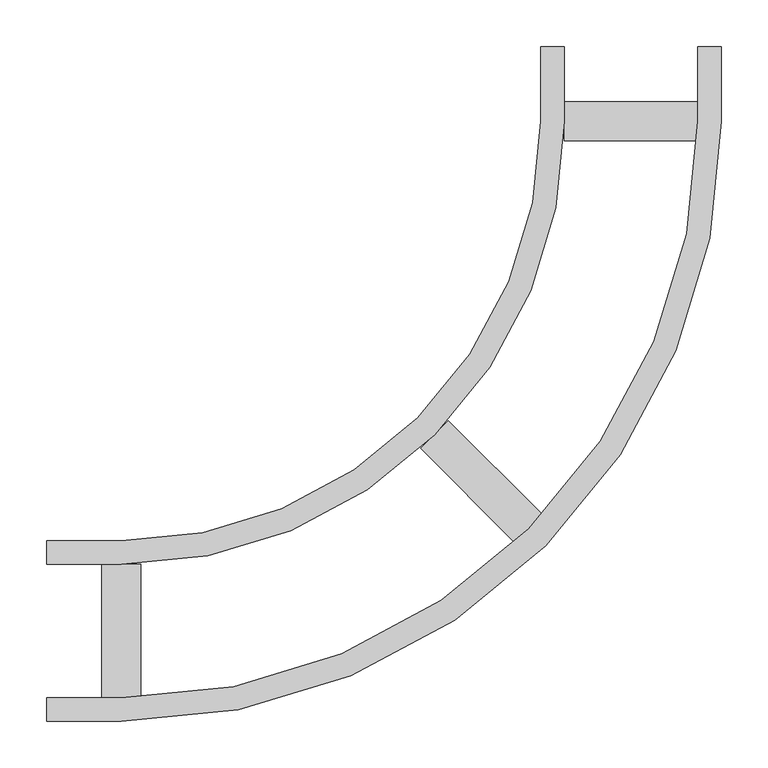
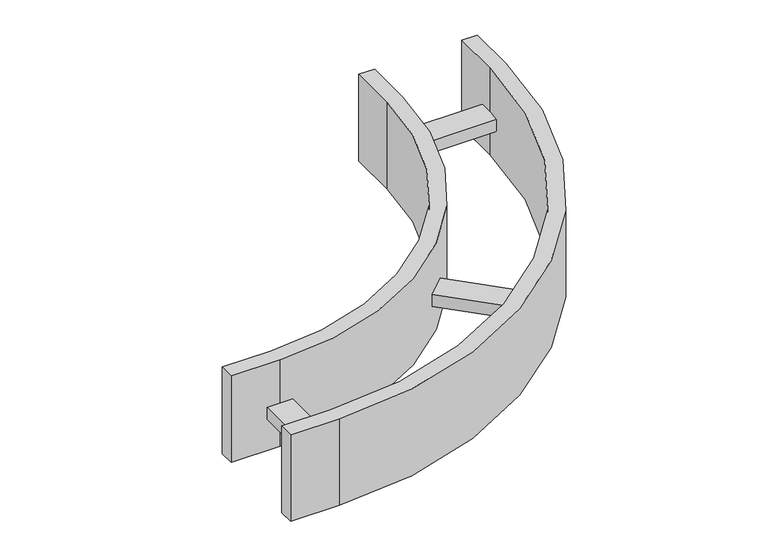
"""IFC4 building model written with IfcOpenShell, lengths in millimetres: cable carrier fitting geometry, Legrand_CableLadder_Swifts_Emerald_FlatBend-13 : Hot Dip Galvanised (after manufacture)."""

from ifc_helpers import new_model, si_unit, point, frame, frame_2d, origin, place, context, project, spatial, polyline, circle_curve, trimmed, segment, composite_curve, outline, extrude, source, transform, mapped, element, save


def cable_carrier_fitting_337bc745(model_context):
    return source(origin(), model_context, "Body", "SweptSolid", [
        extrude(outline(polyline([(-124.5036982, 94.8052134), (-225.619968, 195.9214831), (-195.9214831, 225.619968), (-94.8052134, 124.5036982), (-124.5036982, 94.8052134)])), frame((0.0, 0.0, -21.0), z_axis=(0.0, 0.0, 1.0), x_axis=(1.0, 0.0, 0.0)), (0.0, 0.0, 1.0), 21.0),
        extrude(outline(polyline([(-568.0, -71.5), (-568.0, 71.5), (-526.0, 71.5), (-526.0, -71.5), (-568.0, -71.5)])), frame((0.0, 0.0, -21.0), z_axis=(0.0, 0.0, 1.0), x_axis=(1.0, 0.0, 0.0)), (0.0, 0.0, 1.0), 21.0),
        extrude(outline(polyline([(71.5, 526.0), (-71.5, 526.0), (-71.5, 568.0), (71.5, 568.0), (71.5, 526.0)])), frame((0.0, 0.0, -21.0), z_axis=(0.0, 0.0, 1.0), x_axis=(1.0, 0.0, 0.0)), (0.0, 0.0, 1.0), 21.0),
        extrude(outline(composite_curve([segment(polyline([(-627.0, -97.0), (-627.0, -71.5), (-547.0, -71.5)]), True, "CONTINUOUS"), segment(trimmed(circle_curve(frame_2d((-547.0, 547.0)), 618.5), [point((-547.0, -71.5))], [point((71.5, 547.0))], True, "CARTESIAN"), True, "CONTINUOUS"), segment(polyline([(71.5, 547.0), (71.5, 627.0), (97.0, 627.0), (97.0, 547.0)]), True, "CONTINUOUS"), segment(trimmed(circle_curve(frame_2d((-547.0, 547.0)), 644.0), [point((97.0, 547.0))], [point((-547.0, -97.0))], False, "CARTESIAN"), True, "CONTINUOUS"), segment(polyline([(-547.0, -97.0), (-627.0, -97.0)]), True, "CONTINUOUS")], self_intersect=False)), frame((0.0, 0.0, -75.0), z_axis=(0.0, 0.0, 1.0), x_axis=(1.0, 0.0, 0.0)), (0.0, 0.0, 1.0), 150.0),
        extrude(outline(composite_curve([segment(polyline([(-627.0, 71.5), (-627.0, 97.0), (-547.0, 97.0)]), True, "CONTINUOUS"), segment(trimmed(circle_curve(frame_2d((-547.0, 547.0)), 450.0), [point((-547.0, 97.0))], [point((-97.0, 547.0))], True, "CARTESIAN"), True, "CONTINUOUS"), segment(polyline([(-97.0, 547.0), (-97.0, 627.0), (-71.5, 627.0), (-71.5, 547.0)]), True, "CONTINUOUS"), segment(trimmed(circle_curve(frame_2d((-547.0, 547.0)), 475.5), [point((-71.5, 547.0))], [point((-547.0, 71.5))], False, "CARTESIAN"), True, "CONTINUOUS"), segment(polyline([(-547.0, 71.5), (-627.0, 71.5)]), True, "CONTINUOUS")], self_intersect=False)), frame((0.0, 0.0, -75.0), z_axis=(0.0, 0.0, 1.0), x_axis=(1.0, 0.0, 0.0)), (0.0, 0.0, 1.0), 150.0),
    ])


if __name__ == "__main__":
    model = new_model("IFC4")
    model_context = context("Model", 3, world=origin())
    ifc_project = project(units=[si_unit("LENGTHUNIT", "METRE", prefix="MILLI")], contexts=[model_context])
    site = spatial("IfcSite", under=ifc_project)
    building = spatial("IfcBuilding", under=site)
    placement = place(None, origin())
    cable_carrier_fitting_shape = cable_carrier_fitting_337bc745(model_context)
    element("IfcCableCarrierFitting", 1, ObjectType="Legrand_CableLadder_Swifts_Emerald_FlatBend-13 : Hot Dip Galvanised (after manufacture)", at=placement, inside=building, context=model_context, shape_type="MappedRepresentation", body=[
        mapped(cable_carrier_fitting_shape, transform((0.0, 0.0, 0.0), x_axis=(1.0, 0.0, 0.0), y_axis=(0.0, 1.0, 0.0), z_axis=(0.0, 0.0, 1.0))),
    ])
    save(model, "model.ifc")
